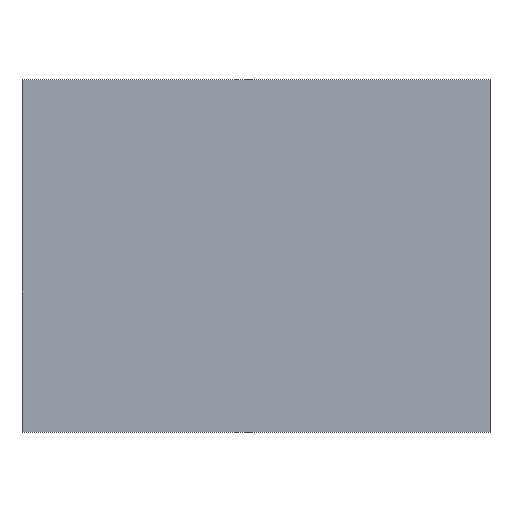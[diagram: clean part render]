
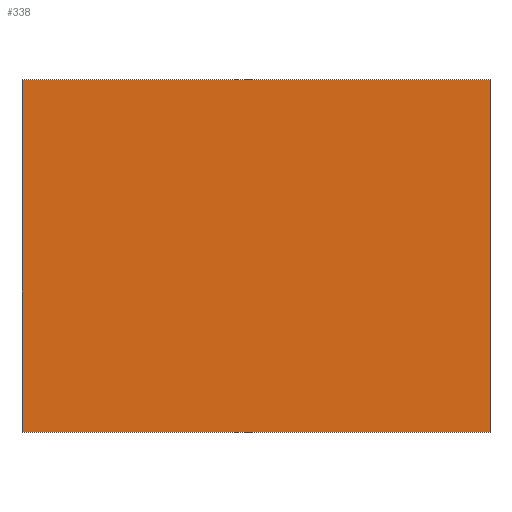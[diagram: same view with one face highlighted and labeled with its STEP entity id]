
A CAD part, top view. The second image highlights one B-rep face of the part: STEP entity #338.
In plain terms, the highlighted planar face has unit normal (0, 0, 1).
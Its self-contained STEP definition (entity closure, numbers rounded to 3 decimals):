
#24 = VERTEX_POINT('',#25);
#25 = CARTESIAN_POINT('',(0.525,-17.225,0.));
#32 = PLANE('',#33);
#33 = AXIS2_PLACEMENT_3D('',#34,#35,#36);
#34 = CARTESIAN_POINT('',(0.525,-17.225,-0.9));
#35 = DIRECTION('',(1.,0.,0.));
#36 = DIRECTION('',(0.,0.,1.));
#44 = PLANE('',#45);
#45 = AXIS2_PLACEMENT_3D('',#46,#47,#48);
#46 = CARTESIAN_POINT('',(0.525,-17.225,-0.9));
#47 = DIRECTION('',(0.,1.,0.));
#48 = DIRECTION('',(0.,0.,1.));
#85 = VERTEX_POINT('',#86);
#86 = CARTESIAN_POINT('',(0.525,-11.125,0.));
#100 = PLANE('',#101);
#101 = AXIS2_PLACEMENT_3D('',#102,#103,#104);
#102 = CARTESIAN_POINT('',(0.525,-11.125,-0.9));
#103 = DIRECTION('',(0.,1.,0.));
#104 = DIRECTION('',(0.,0.,1.));
#112 = EDGE_CURVE('',#24,#85,#113,.T.);
#113 = SURFACE_CURVE('',#114,(#118,#125),.PCURVE_S1.);
#114 = LINE('',#115,#116);
#115 = CARTESIAN_POINT('',(0.525,-17.225,0.));
#116 = VECTOR('',#117,1.);
#117 = DIRECTION('',(0.,1.,0.));
#118 = PCURVE('',#32,#119);
#119 = DEFINITIONAL_REPRESENTATION('',(#120),#124);
#120 = LINE('',#121,#122);
#121 = CARTESIAN_POINT('',(0.9,0.));
#122 = VECTOR('',#123,1.);
#123 = DIRECTION('',(0.,-1.));
#124 = ( GEOMETRIC_REPRESENTATION_CONTEXT(2) 
PARAMETRIC_REPRESENTATION_CONTEXT() REPRESENTATION_CONTEXT('2D SPACE',''
  ) );
#125 = PCURVE('',#126,#131);
#126 = PLANE('',#127);
#127 = AXIS2_PLACEMENT_3D('',#128,#129,#130);
#128 = CARTESIAN_POINT('',(0.525,-17.225,0.));
#129 = DIRECTION('',(0.,0.,1.));
#130 = DIRECTION('',(1.,0.,0.));
#131 = DEFINITIONAL_REPRESENTATION('',(#132),#136);
#132 = LINE('',#133,#134);
#133 = CARTESIAN_POINT('',(0.,0.));
#134 = VECTOR('',#135,1.);
#135 = DIRECTION('',(0.,1.));
#136 = ( GEOMETRIC_REPRESENTATION_CONTEXT(2) 
PARAMETRIC_REPRESENTATION_CONTEXT() REPRESENTATION_CONTEXT('2D SPACE',''
  ) );
#144 = VERTEX_POINT('',#145);
#145 = CARTESIAN_POINT('',(8.625,-17.225,0.));
#152 = PLANE('',#153);
#153 = AXIS2_PLACEMENT_3D('',#154,#155,#156);
#154 = CARTESIAN_POINT('',(8.625,-17.225,-0.9));
#155 = DIRECTION('',(1.,0.,0.));
#156 = DIRECTION('',(0.,0.,1.));
#195 = VERTEX_POINT('',#196);
#196 = CARTESIAN_POINT('',(8.625,-11.125,0.));
#217 = EDGE_CURVE('',#144,#195,#218,.T.);
#218 = SURFACE_CURVE('',#219,(#223,#230),.PCURVE_S1.);
#219 = LINE('',#220,#221);
#220 = CARTESIAN_POINT('',(8.625,-17.225,0.));
#221 = VECTOR('',#222,1.);
#222 = DIRECTION('',(0.,1.,0.));
#223 = PCURVE('',#152,#224);
#224 = DEFINITIONAL_REPRESENTATION('',(#225),#229);
#225 = LINE('',#226,#227);
#226 = CARTESIAN_POINT('',(0.9,0.));
#227 = VECTOR('',#228,1.);
#228 = DIRECTION('',(0.,-1.));
#229 = ( GEOMETRIC_REPRESENTATION_CONTEXT(2) 
PARAMETRIC_REPRESENTATION_CONTEXT() REPRESENTATION_CONTEXT('2D SPACE',''
  ) );
#230 = PCURVE('',#126,#231);
#231 = DEFINITIONAL_REPRESENTATION('',(#232),#236);
#232 = LINE('',#233,#234);
#233 = CARTESIAN_POINT('',(8.1,0.));
#234 = VECTOR('',#235,1.);
#235 = DIRECTION('',(0.,1.));
#236 = ( GEOMETRIC_REPRESENTATION_CONTEXT(2) 
PARAMETRIC_REPRESENTATION_CONTEXT() REPRESENTATION_CONTEXT('2D SPACE',''
  ) );
#263 = EDGE_CURVE('',#24,#144,#264,.T.);
#264 = SURFACE_CURVE('',#265,(#269,#276),.PCURVE_S1.);
#265 = LINE('',#266,#267);
#266 = CARTESIAN_POINT('',(0.525,-17.225,0.));
#267 = VECTOR('',#268,1.);
#268 = DIRECTION('',(1.,0.,0.));
#269 = PCURVE('',#44,#270);
#270 = DEFINITIONAL_REPRESENTATION('',(#271),#275);
#271 = LINE('',#272,#273);
#272 = CARTESIAN_POINT('',(0.9,0.));
#273 = VECTOR('',#274,1.);
#274 = DIRECTION('',(0.,1.));
#275 = ( GEOMETRIC_REPRESENTATION_CONTEXT(2) 
PARAMETRIC_REPRESENTATION_CONTEXT() REPRESENTATION_CONTEXT('2D SPACE',''
  ) );
#276 = PCURVE('',#126,#277);
#277 = DEFINITIONAL_REPRESENTATION('',(#278),#282);
#278 = LINE('',#279,#280);
#279 = CARTESIAN_POINT('',(0.,0.));
#280 = VECTOR('',#281,1.);
#281 = DIRECTION('',(1.,0.));
#282 = ( GEOMETRIC_REPRESENTATION_CONTEXT(2) 
PARAMETRIC_REPRESENTATION_CONTEXT() REPRESENTATION_CONTEXT('2D SPACE',''
  ) );
#310 = EDGE_CURVE('',#85,#195,#311,.T.);
#311 = SURFACE_CURVE('',#312,(#316,#323),.PCURVE_S1.);
#312 = LINE('',#313,#314);
#313 = CARTESIAN_POINT('',(0.525,-11.125,0.));
#314 = VECTOR('',#315,1.);
#315 = DIRECTION('',(1.,0.,0.));
#316 = PCURVE('',#100,#317);
#317 = DEFINITIONAL_REPRESENTATION('',(#318),#322);
#318 = LINE('',#319,#320);
#319 = CARTESIAN_POINT('',(0.9,0.));
#320 = VECTOR('',#321,1.);
#321 = DIRECTION('',(0.,1.));
#322 = ( GEOMETRIC_REPRESENTATION_CONTEXT(2) 
PARAMETRIC_REPRESENTATION_CONTEXT() REPRESENTATION_CONTEXT('2D SPACE',''
  ) );
#323 = PCURVE('',#126,#324);
#324 = DEFINITIONAL_REPRESENTATION('',(#325),#329);
#325 = LINE('',#326,#327);
#326 = CARTESIAN_POINT('',(0.,6.1));
#327 = VECTOR('',#328,1.);
#328 = DIRECTION('',(1.,0.));
#329 = ( GEOMETRIC_REPRESENTATION_CONTEXT(2) 
PARAMETRIC_REPRESENTATION_CONTEXT() REPRESENTATION_CONTEXT('2D SPACE',''
  ) );
#338 = ADVANCED_FACE('',(#339),#126,.T.);
#339 = FACE_BOUND('',#340,.T.);
#340 = EDGE_LOOP('',(#341,#342,#343,#344));
#341 = ORIENTED_EDGE('',*,*,#112,.F.);
#342 = ORIENTED_EDGE('',*,*,#263,.T.);
#343 = ORIENTED_EDGE('',*,*,#217,.T.);
#344 = ORIENTED_EDGE('',*,*,#310,.F.);
